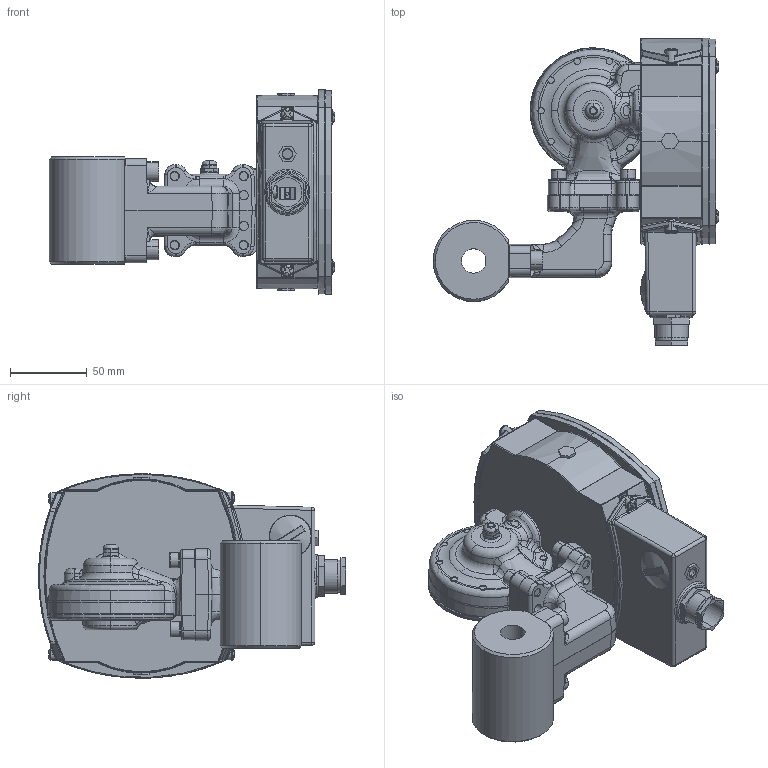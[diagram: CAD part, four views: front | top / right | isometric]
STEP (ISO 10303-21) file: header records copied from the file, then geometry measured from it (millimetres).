
FILE_DESCRIPTION (( 'STEP AP214' ), '1' );
FILE_NAME ('S FA15.STEP', '2016-09-21T06:29:10', ( 'User' ), ( 'HP' ), 'SwSTEP 2.0', 'SolidWorks 2016', '' );
FILE_SCHEMA (( 'AUTOMOTIVE_DESIGN' ));
Length unit declared in the file: millimetre
Products named in the file (35): ID_9; MC6S M6x22_1; ID_1_4_2; Lock kontrollerad HMAB ELETTA 20160908_1; ID_7_2; ID_6_1; Membranhus kontrollerad HMAB ELETTA 20160908_1; ID_5_2; ID_4_3; S2_25_internal_2_1; ID_3_3; kupolmutter_1; ID_2_4; m_X_E4ssingsmembran_1; ID_1_4; S hus; ID_1_4_8; S FA15; ID_14; ID_13; FA15 anslutningsror; ID_12; fa hals; ID_1_1; ID_2_2; ID_1_4_5; ID_1_2; ID_10; membranhus br; ID_1_4_4; M5 membranskruvar_1; ID_1_4_3; skruv_membranhus_1; ID_1_1_2; fj_X_E4derbricka till membranhus BR_1
Assembly tree (54 placements, depth 5):
  S FA15
    S hus
      ID_1_1
        ID_1_4
        ID_2_4
        ID_3_3
        ID_4_3
        ID_5_2
        ID_6_1  x4
        ID_7_2  x4
        ID_1_4_2
        ID_1_1_2
          ID_9  x2
        ID_1_4_3
        ID_1_4_4
        ID_10
        ID_1_4_5
      ID_12  x2
      ID_13
      ID_14
      ID_1_4_8
    membranhus br
      S2_25_internal_2_1
        m_X_E4ssingsmembran_1
        kupolmutter_1
      Membranhus kontrollerad HMAB ELETTA 20160908_1
      Lock kontrollerad HMAB ELETTA 20160908_1
      MC6S M6x22_1  x4
      M5 membranskruvar_1  x9
        fj_X_E4derbricka till membranhus BR_1
        skruv_membranhus_1
    fa hals
      ID_1_2
      ID_2_2  x2
    FA15 anslutningsror
Bounding box: 186.5 x 200.42 x 133.42 mm (x, y, z)
Volume: 625668.8 mm3; surface area: 268340 mm2
Topology: 56 solids, 56 shells, 2420 faces, 5945 edges, 3689 vertices
Faces by surface type: plane 864, cylinder 691, bspline 585, cone 206, torus 67, sphere 7
Entity records: 101184 total; most frequent: CARTESIAN_POINT 58792, ORIENTED_EDGE 9356, DIRECTION 7211, EDGE_CURVE 4678, VERTEX_POINT 2922, AXIS2_PLACEMENT_3D 2691, EDGE_LOOP 2114, ADVANCED_FACE 1897
